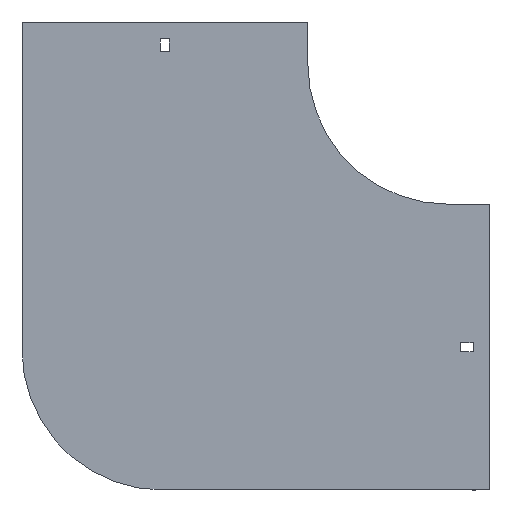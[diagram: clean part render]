
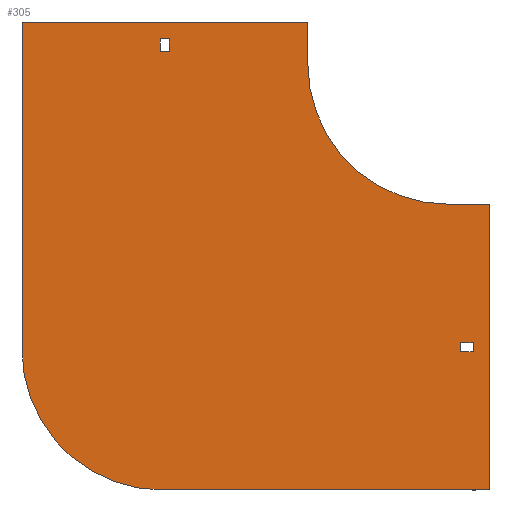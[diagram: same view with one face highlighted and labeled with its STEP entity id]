
A CAD part, front view. The second image highlights one B-rep face of the part: STEP entity #305.
In plain terms, the highlighted planar face has unit normal (0, -1, 0).
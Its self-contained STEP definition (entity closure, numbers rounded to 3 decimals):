
#1 = CARTESIAN_POINT ( 'NONE',  ( 30., 0., -304. ) ) ;
#16 = DIRECTION ( 'NONE',  ( 0., 0., -1. ) ) ;
#18 = VERTEX_POINT ( 'NONE', #546 ) ;
#21 = VERTEX_POINT ( 'NONE', #1291 ) ;
#31 = EDGE_CURVE ( 'NONE', #485, #79, #434, .T. ) ;
#33 = VECTOR ( 'NONE', #238, 1000. ) ;
#40 = VECTOR ( 'NONE', #700, 1000. ) ;
#41 = CARTESIAN_POINT ( 'NONE',  ( -198.75, 0., 9. ) ) ;
#65 = CARTESIAN_POINT ( 'NONE',  ( 9., 0., -205.25 ) ) ;
#79 = VERTEX_POINT ( 'NONE', #1227 ) ;
#82 = LINE ( 'NONE', #542, #547 ) ;
#101 = ORIENTED_EDGE ( 'NONE', *, *, #749, .F. ) ;
#110 = CARTESIAN_POINT ( 'NONE',  ( 18., 0., -198.75 ) ) ;
#113 = CARTESIAN_POINT ( 'NONE',  ( 9., 0., -198.75 ) ) ;
#117 = VERTEX_POINT ( 'NONE', #419 ) ;
#120 = DIRECTION ( 'NONE',  ( 1., 0., 0. ) ) ;
#131 = CARTESIAN_POINT ( 'NONE',  ( -304., 0., 30. ) ) ;
#133 = ORIENTED_EDGE ( 'NONE', *, *, #1197, .F. ) ;
#141 = ORIENTED_EDGE ( 'NONE', *, *, #866, .F. ) ;
#153 = CARTESIAN_POINT ( 'NONE',  ( -205.25, 0., 9. ) ) ;
#156 = DIRECTION ( 'NONE',  ( 0., 0., -1. ) ) ;
#186 = VERTEX_POINT ( 'NONE', #131 ) ;
#195 = DIRECTION ( 'NONE',  ( 1., 0., 0. ) ) ;
#210 = CARTESIAN_POINT ( 'NONE',  ( -198.75, 0., 18. ) ) ;
#215 = VERTEX_POINT ( 'NONE', #766 ) ;
#222 = DIRECTION ( 'NONE',  ( 0., 0., 1. ) ) ;
#230 = LINE ( 'NONE', #1002, #33 ) ;
#234 = DIRECTION ( 'NONE',  ( -1., 0., 0. ) ) ;
#238 = DIRECTION ( 'NONE',  ( 0., 0., -1. ) ) ;
#258 = DIRECTION ( 'NONE',  ( 1., 0., 0. ) ) ;
#259 = CARTESIAN_POINT ( 'NONE',  ( -100., 0., 30. ) ) ;
#265 = CARTESIAN_POINT ( 'NONE',  ( 18., 0., -205.25 ) ) ;
#270 = CARTESIAN_POINT ( 'NONE',  ( 18., 0., -205.25 ) ) ;
#285 = VECTOR ( 'NONE', #647, 1000. ) ;
#294 = CARTESIAN_POINT ( 'NONE',  ( -100., 0., 30. ) ) ;
#302 = CARTESIAN_POINT ( 'NONE',  ( -204., 0., -304. ) ) ;
#305 = ADVANCED_FACE ( 'NONE', ( #1014, #1241, #367 ), #1045, .T. ) ;
#306 = CARTESIAN_POINT ( 'NONE',  ( -204., 0., -204. ) ) ;
#334 = DIRECTION ( 'NONE',  ( 0., 0., 1. ) ) ;
#338 = VERTEX_POINT ( 'NONE', #41 ) ;
#350 = ORIENTED_EDGE ( 'NONE', *, *, #31, .T. ) ;
#367 = FACE_BOUND ( 'NONE', #1184, .T. ) ;
#368 = DIRECTION ( 'NONE',  ( 0., -1., 0. ) ) ;
#373 = DIRECTION ( 'NONE',  ( 0., 0., -1. ) ) ;
#375 = CARTESIAN_POINT ( 'NONE',  ( 0., 0., 0. ) ) ;
#392 = ORIENTED_EDGE ( 'NONE', *, *, #594, .F. ) ;
#409 = VECTOR ( 'NONE', #234, 1000. ) ;
#411 = EDGE_CURVE ( 'NONE', #186, #937, #82, .T. ) ;
#419 = CARTESIAN_POINT ( 'NONE',  ( 30., 0., -100. ) ) ;
#434 = LINE ( 'NONE', #439, #761 ) ;
#439 = CARTESIAN_POINT ( 'NONE',  ( -205.25, 0., 9. ) ) ;
#442 = LINE ( 'NONE', #1204, #1183 ) ;
#485 = VERTEX_POINT ( 'NONE', #153 ) ;
#501 = EDGE_CURVE ( 'NONE', #21, #1330, #1017, .T. ) ;
#503 = EDGE_CURVE ( 'NONE', #937, #615, #1003, .T. ) ;
#504 = ORIENTED_EDGE ( 'NONE', *, *, #670, .T. ) ;
#513 = CARTESIAN_POINT ( 'NONE',  ( -205.25, 0., 9. ) ) ;
#525 = DIRECTION ( 'NONE',  ( 0., 1., 0. ) ) ;
#533 = CARTESIAN_POINT ( 'NONE',  ( -100., 0., 0. ) ) ;
#539 = ORIENTED_EDGE ( 'NONE', *, *, #503, .F. ) ;
#542 = CARTESIAN_POINT ( 'NONE',  ( -304., 0., 30. ) ) ;
#546 = CARTESIAN_POINT ( 'NONE',  ( -304., 0., -204. ) ) ;
#547 = VECTOR ( 'NONE', #1056, 1000. ) ;
#563 = VERTEX_POINT ( 'NONE', #210 ) ;
#589 = VERTEX_POINT ( 'NONE', #640 ) ;
#594 = EDGE_CURVE ( 'NONE', #886, #18, #672, .T. ) ;
#596 = VECTOR ( 'NONE', #1052, 1000. ) ;
#615 = VERTEX_POINT ( 'NONE', #533 ) ;
#622 = CARTESIAN_POINT ( 'NONE',  ( 0., 0., 0. ) ) ;
#631 = CARTESIAN_POINT ( 'NONE',  ( 9., 0., -205.25 ) ) ;
#640 = CARTESIAN_POINT ( 'NONE',  ( 30., 0., -304. ) ) ;
#645 = ORIENTED_EDGE ( 'NONE', *, *, #833, .T. ) ;
#647 = DIRECTION ( 'NONE',  ( 0., 0., -1. ) ) ;
#652 = VECTOR ( 'NONE', #258, 1000. ) ;
#668 = CIRCLE ( 'NONE', #807, 100. ) ;
#669 = CARTESIAN_POINT ( 'NONE',  ( 9., 0., -205.25 ) ) ;
#670 = EDGE_CURVE ( 'NONE', #563, #338, #754, .T. ) ;
#672 = CIRCLE ( 'NONE', #1270, 100. ) ;
#685 = ORIENTED_EDGE ( 'NONE', *, *, #1298, .F. ) ;
#693 = DIRECTION ( 'NONE',  ( 0., 0., -1. ) ) ;
#700 = DIRECTION ( 'NONE',  ( 0., 0., 1. ) ) ;
#706 = EDGE_CURVE ( 'NONE', #338, #485, #1085, .T. ) ;
#716 = VECTOR ( 'NONE', #693, 1000. ) ;
#746 = EDGE_CURVE ( 'NONE', #215, #117, #798, .T. ) ;
#749 = EDGE_CURVE ( 'NONE', #18, #186, #442, .T. ) ;
#754 = LINE ( 'NONE', #760, #285 ) ;
#760 = CARTESIAN_POINT ( 'NONE',  ( -198.75, 0., 9. ) ) ;
#761 = VECTOR ( 'NONE', #1396, 1000. ) ;
#766 = CARTESIAN_POINT ( 'NONE',  ( 0., 0., -100. ) ) ;
#784 = EDGE_CURVE ( 'NONE', #117, #589, #230, .T. ) ;
#798 = LINE ( 'NONE', #1117, #1294 ) ;
#807 = AXIS2_PLACEMENT_3D ( 'NONE', #375, #368, #16 ) ;
#822 = DIRECTION ( 'NONE',  ( 0., -1., 0. ) ) ;
#833 = EDGE_CURVE ( 'NONE', #79, #563, #890, .T. ) ;
#866 = EDGE_CURVE ( 'NONE', #1091, #21, #907, .T. ) ;
#879 = ORIENTED_EDGE ( 'NONE', *, *, #501, .F. ) ;
#886 = VERTEX_POINT ( 'NONE', #302 ) ;
#887 = ORIENTED_EDGE ( 'NONE', *, *, #706, .T. ) ;
#890 = LINE ( 'NONE', #1310, #652 ) ;
#907 = LINE ( 'NONE', #113, #1307 ) ;
#937 = VERTEX_POINT ( 'NONE', #294 ) ;
#986 = LINE ( 'NONE', #1, #409 ) ;
#1002 = CARTESIAN_POINT ( 'NONE',  ( 30., 0., -100. ) ) ;
#1003 = LINE ( 'NONE', #259, #716 ) ;
#1014 = FACE_BOUND ( 'NONE', #1218, .T. ) ;
#1017 = LINE ( 'NONE', #669, #1340 ) ;
#1029 = EDGE_CURVE ( 'NONE', #1207, #1091, #1123, .T. ) ;
#1045 = PLANE ( 'NONE',  #1078 ) ;
#1052 = DIRECTION ( 'NONE',  ( -1., 0., 0. ) ) ;
#1053 = EDGE_CURVE ( 'NONE', #589, #886, #986, .T. ) ;
#1056 = DIRECTION ( 'NONE',  ( 1., 0., 0. ) ) ;
#1078 = AXIS2_PLACEMENT_3D ( 'NONE', #622, #822, #156 ) ;
#1085 = LINE ( 'NONE', #513, #596 ) ;
#1091 = VERTEX_POINT ( 'NONE', #110 ) ;
#1098 = ORIENTED_EDGE ( 'NONE', *, *, #784, .F. ) ;
#1117 = CARTESIAN_POINT ( 'NONE',  ( 0., 0., -100. ) ) ;
#1123 = LINE ( 'NONE', #265, #40 ) ;
#1159 = ORIENTED_EDGE ( 'NONE', *, *, #411, .F. ) ;
#1183 = VECTOR ( 'NONE', #334, 1000. ) ;
#1184 = EDGE_LOOP ( 'NONE', ( #1387, #685, #879, #141 ) ) ;
#1197 = EDGE_CURVE ( 'NONE', #615, #215, #668, .T. ) ;
#1204 = CARTESIAN_POINT ( 'NONE',  ( -304., 0., -204. ) ) ;
#1205 = ORIENTED_EDGE ( 'NONE', *, *, #1053, .F. ) ;
#1207 = VERTEX_POINT ( 'NONE', #270 ) ;
#1218 = EDGE_LOOP ( 'NONE', ( #350, #645, #504, #887 ) ) ;
#1227 = CARTESIAN_POINT ( 'NONE',  ( -205.25, 0., 18. ) ) ;
#1241 = FACE_OUTER_BOUND ( 'NONE', #1402, .T. ) ;
#1270 = AXIS2_PLACEMENT_3D ( 'NONE', #306, #525, #222 ) ;
#1281 = VECTOR ( 'NONE', #195, 1000. ) ;
#1291 = CARTESIAN_POINT ( 'NONE',  ( 9., 0., -198.75 ) ) ;
#1293 = DIRECTION ( 'NONE',  ( -1., 0., 0. ) ) ;
#1294 = VECTOR ( 'NONE', #120, 1000. ) ;
#1298 = EDGE_CURVE ( 'NONE', #1330, #1207, #1368, .T. ) ;
#1307 = VECTOR ( 'NONE', #1293, 1000. ) ;
#1310 = CARTESIAN_POINT ( 'NONE',  ( -205.25, 0., 18. ) ) ;
#1330 = VERTEX_POINT ( 'NONE', #65 ) ;
#1340 = VECTOR ( 'NONE', #373, 1000. ) ;
#1356 = ORIENTED_EDGE ( 'NONE', *, *, #746, .F. ) ;
#1368 = LINE ( 'NONE', #631, #1281 ) ;
#1387 = ORIENTED_EDGE ( 'NONE', *, *, #1029, .F. ) ;
#1396 = DIRECTION ( 'NONE',  ( 0., 0., 1. ) ) ;
#1402 = EDGE_LOOP ( 'NONE', ( #1159, #101, #392, #1205, #1098, #1356, #133, #539 ) ) ;
